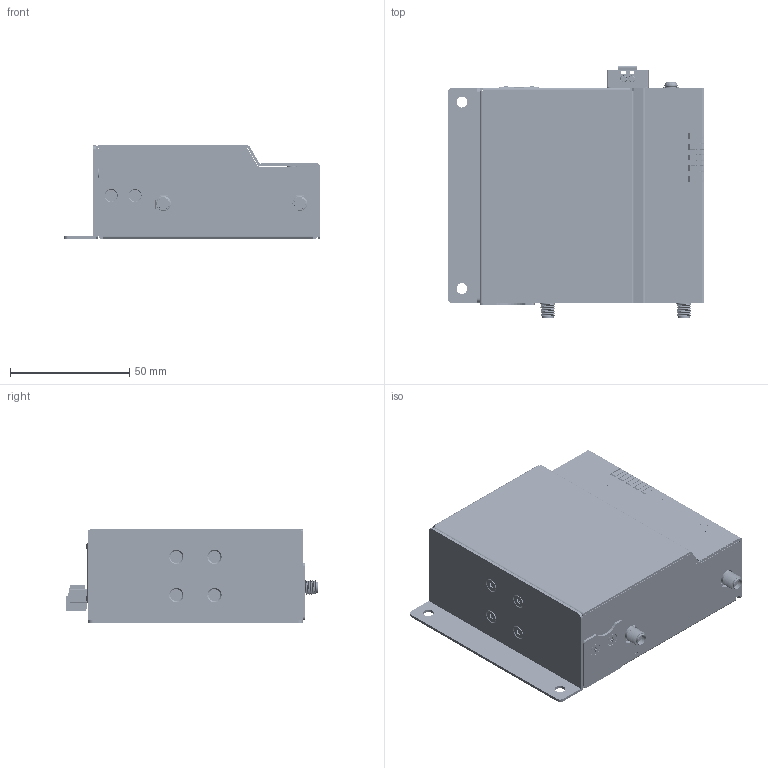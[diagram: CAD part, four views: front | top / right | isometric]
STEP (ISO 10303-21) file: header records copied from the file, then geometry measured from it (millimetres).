
FILE_DESCRIPTION (( 'STEP AP214' ), '1' );
FILE_NAME ('ICR-1602_WALL.STEP', '2024-04-30T03:19:08', ( '' ), ( '' ), 'SwSTEP 2.0', 'SolidWorks 2022', '' );
FILE_SCHEMA (( 'AUTOMOTIVE_DESIGN' ));
Length unit declared in the file: millimetre
Products named in the file (33): 1935130610_默认; 1652002024_默认; con10304a_p01_asm.stp; 1931030520_BLACK_默认; 1600003018-01-20230908_默认; assy_ICR-11XX-C-20230908_ASSY_ICR-1602; 1304003673-01_默认; 1654015603-01-e5900039-3d-withemi(1)-20230908; PRT0005_1_1_2.stp; 193B020402_默认; PRT0003_1_1_2.stp; PC LABEL-1642_TOP; PRT0004_1_1_2.stp; 1652000984-20230908_默认; pcb_ICR-11XX-20230908; ICR-1602_WALL; 90_1_1_2.stp; BOTTOM-2P-A_20231212_CHASSIS-1642; con10304a_p01_asm; COVER-2P-A_20231212_cover_1602; ASM0001_ASM_1_1_2_ASM.stp; 1654002618_默认; SIM5-06F1-KNM1-01 ; PRT0002_1_1_2.stp; plate_lens_2 PART; 1931030520-A_默认; 1304003100-01_默认; 1960055896S000; COVER-SIM; spacer-lens; 1653008935-01_默认; 1990032849T000-LENS_WISE-7000; WALL MOUNT_1742
Assembly tree (54 placements, depth 6):
  ICR-1602_WALL
    assy_ICR-11XX-C-20230908_ASSY_ICR-1602
      pcb_ICR-11XX-20230908
      1652000984-20230908_默认
      1654015603-01-e5900039-3d-withemi(1)-20230908
      con10304a_p01_asm  x2
        con10304a_p01_asm.stp
          ASM0001_ASM_1_1_2_ASM.stp
            90_1_1_2.stp
            PRT0002_1_1_2.stp
            PRT0003_1_1_2.stp
            PRT0004_1_1_2.stp
            PRT0005_1_1_2.stp
      SIM5-06F1-KNM1-01   x2
      1304003673-01_默认  x2
      1304003100-01_默认  x3
      1600003018-01-20230908_默认
      1653008935-01_默认  x2
      1654002618_默认  x4
      1960055896S000
    BOTTOM-2P-A_20231212_CHASSIS-1642
    COVER-2P-A_20231212_cover_1602
    1931030520-A_默认  x6
    COVER-SIM
    1935130610_默认
    plate_lens_2 PART
    193B020402_默认  x6
    spacer-lens
    1652002024_默认
    WALL MOUNT_1742
    PC LABEL-1642_TOP
    1931030520_BLACK_默认  x4
    1990032849T000-LENS_WISE-7000
Bounding box: 107.5 x 105.6 x 39 mm (x, y, z)
Volume: 55601.3 mm3; surface area: 125738.7 mm2
Topology: 62 solids, 93 shells, 9531 faces, 25928 edges, 16737 vertices
Faces by surface type: plane 4574, bspline 3386, cylinder 1353, cone 134, sphere 42, torus 42
Entity records: 289906 total; most frequent: CARTESIAN_POINT 96495, ORIENTED_EDGE 40456, DIRECTION 29219, EDGE_CURVE 20261, LINE 13505, VECTOR 13505, VERTEX_POINT 13067, EDGE_LOOP 8006
